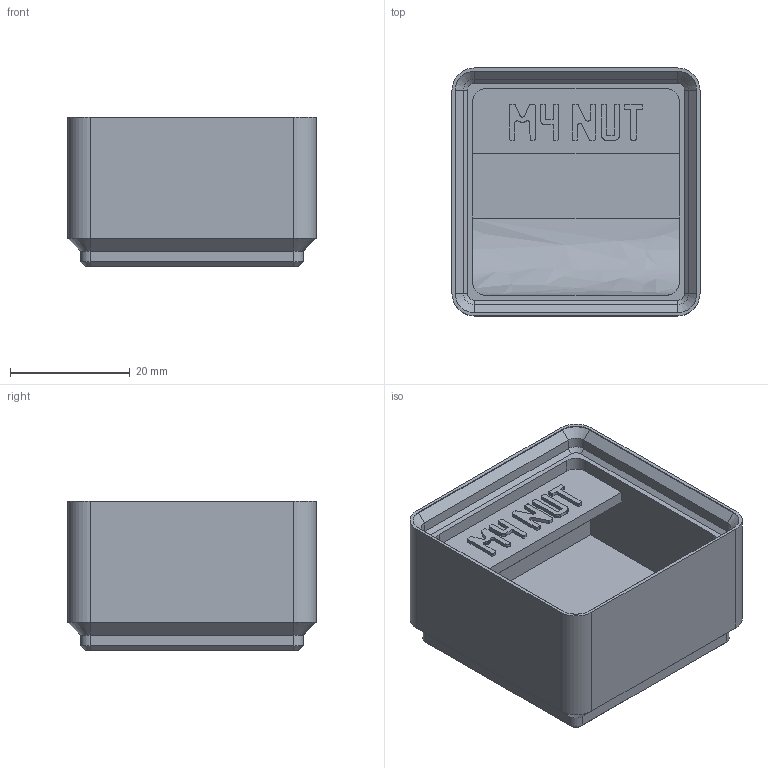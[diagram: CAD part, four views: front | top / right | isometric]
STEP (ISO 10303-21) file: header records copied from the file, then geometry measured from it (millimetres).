
FILE_DESCRIPTION(('Open CASCADE Model'),'2;1');
FILE_NAME('m4-nut','2026-11-17T16:08:17',('Author'),('Open CASCADE'), 'Open CASCADE STEP processor 8.0','build123d','Unknown');
FILE_SCHEMA(('AUTOMOTIVE_DESIGN { 1 0 10303 214 1 1 1 1 }'));
Length unit declared in the file: millimetre
Products named in the file (1): m4-nut
Bounding box: 41.5 x 41.5 x 25 mm (x, y, z)
Volume: 22470.5 mm3; surface area: 9520 mm2
Topology: 1 solids, 1 shells, 500 faces, 1425 edges, 934 vertices
Faces by surface type: plane 463, cylinder 20, cone 16, extrusion 1
Entity records: 33696 total; most frequent: CARTESIAN_POINT 6931, DIRECTION 4340, VECTOR 3230, LINE 3229, ORIENTED_EDGE 2850, PCURVE 2850, DEFINITIONAL_REPRESENTATION 2850, EDGE_CURVE 1425
